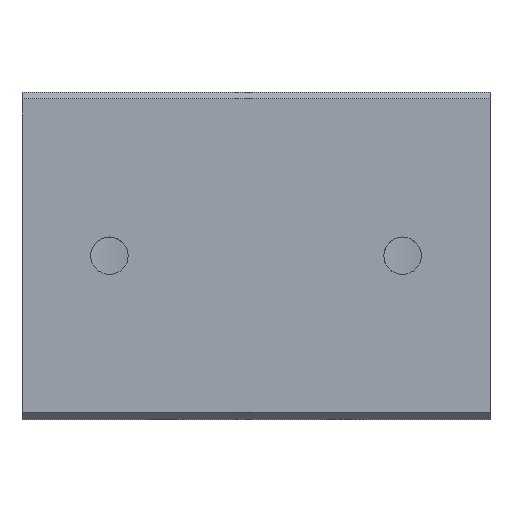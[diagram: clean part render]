
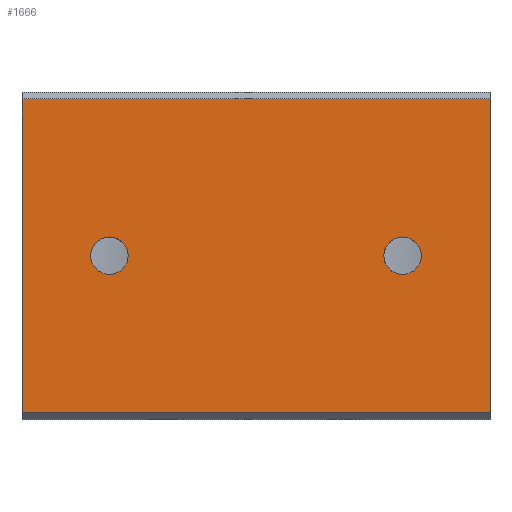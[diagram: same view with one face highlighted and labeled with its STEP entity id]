
A CAD part, top view. The second image highlights one B-rep face of the part: STEP entity #1666.
In plain terms, the highlighted planar face has unit normal (0, 0, 1).
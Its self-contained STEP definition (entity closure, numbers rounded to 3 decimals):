
#1514=CARTESIAN_POINT('',(83.0,-27.8,38.));
#1515=VERTEX_POINT('',#1514);
#1522=CARTESIAN_POINT('',(0.0,-27.8,38.));
#1523=VERTEX_POINT('',#1522);
#1524=CARTESIAN_POINT('',(83.0,-27.8,38.));
#1525=DIRECTION('',(-1.0,0.0,0.0));
#1526=VECTOR('',#1525,83.0);
#1527=LINE('',#1524,#1526);
#1528=EDGE_CURVE('',#1515,#1523,#1527,.T.);
#1553=CARTESIAN_POINT('',(0.0,27.8,38.));
#1554=VERTEX_POINT('',#1553);
#1555=CARTESIAN_POINT('',(0.0,-27.8,38.));
#1556=DIRECTION('',(0.0,1.0,0.0));
#1557=VECTOR('',#1556,55.6);
#1558=LINE('',#1555,#1557);
#1559=EDGE_CURVE('',#1523,#1554,#1558,.T.);
#1621=CARTESIAN_POINT('',(0.0,-29.,38.));
#1622=DIRECTION('',(0.0,0.0,1.0));
#1623=DIRECTION('',(1.0,0.0,0.0));
#1624=AXIS2_PLACEMENT_3D('',#1621,#1622,#1623);
#1625=PLANE('',#1624);
#1626=ORIENTED_EDGE('',*,*,#1528,.F.);
#1627=CARTESIAN_POINT('',(83.0,27.8,38.));
#1628=VERTEX_POINT('',#1627);
#1629=CARTESIAN_POINT('',(83.0,-27.8,38.));
#1630=DIRECTION('',(0.0,1.0,0.0));
#1631=VECTOR('',#1630,55.6);
#1632=LINE('',#1629,#1631);
#1633=EDGE_CURVE('',#1515,#1628,#1632,.T.);
#1634=ORIENTED_EDGE('',*,*,#1633,.T.);
#1635=CARTESIAN_POINT('',(0.0,27.8,38.));
#1636=DIRECTION('',(1.0,0.0,0.0));
#1637=VECTOR('',#1636,83.0);
#1638=LINE('',#1635,#1637);
#1639=EDGE_CURVE('',#1554,#1628,#1638,.T.);
#1640=ORIENTED_EDGE('',*,*,#1639,.F.);
#1641=ORIENTED_EDGE('',*,*,#1559,.F.);
#1642=EDGE_LOOP('',(#1626,#1634,#1640,#1641));
#1643=FACE_OUTER_BOUND('',#1642,.T.);
#1644=CARTESIAN_POINT('',(18.824,0.0,38.0));
#1645=VERTEX_POINT('',#1644);
#1646=CARTESIAN_POINT('',(15.5,0.0,38.));
#1647=DIRECTION('',(0.0,0.0,-1.0));
#1648=DIRECTION('',(1.0,0.0,0.0));
#1649=AXIS2_PLACEMENT_3D('',#1646,#1647,#1648);
#1650=CIRCLE('',#1649,3.324);
#1651=EDGE_CURVE('',#1645,#1645,#1650,.T.);
#1652=ORIENTED_EDGE('',*,*,#1651,.T.);
#1653=EDGE_LOOP('',(#1652));
#1654=FACE_BOUND('',#1653,.T.);
#1655=CARTESIAN_POINT('',(70.823,0.,38.0));
#1656=VERTEX_POINT('',#1655);
#1657=CARTESIAN_POINT('',(67.5,0.,38.));
#1658=DIRECTION('',(0.0,0.0,-1.0));
#1659=DIRECTION('',(1.0,0.0,0.0));
#1660=AXIS2_PLACEMENT_3D('',#1657,#1658,#1659);
#1661=CIRCLE('',#1660,3.324);
#1662=EDGE_CURVE('',#1656,#1656,#1661,.T.);
#1663=ORIENTED_EDGE('',*,*,#1662,.T.);
#1664=EDGE_LOOP('',(#1663));
#1665=FACE_BOUND('',#1664,.T.);
#1666=ADVANCED_FACE('',(#1643,#1654,#1665),#1625,.T.);
